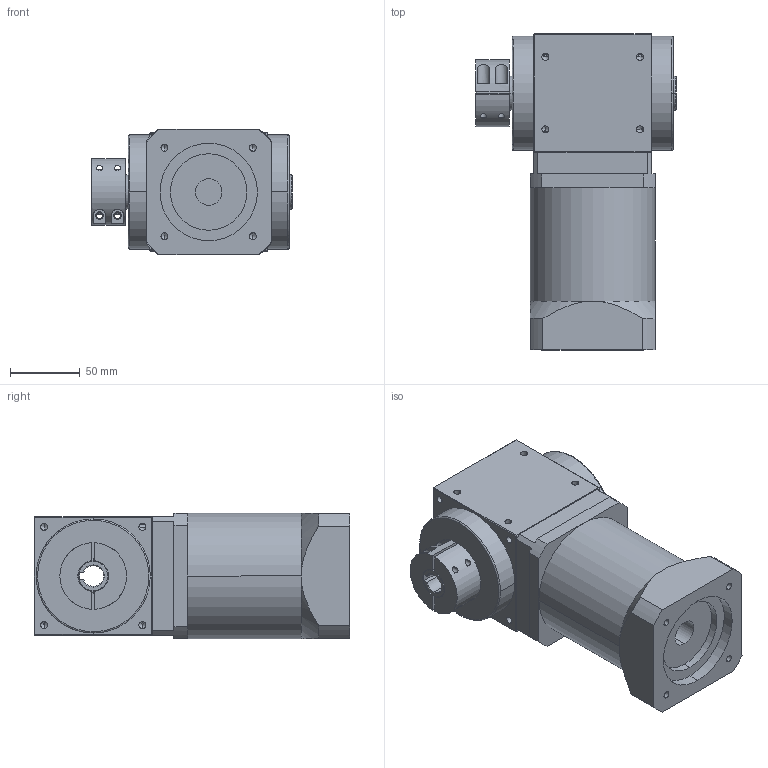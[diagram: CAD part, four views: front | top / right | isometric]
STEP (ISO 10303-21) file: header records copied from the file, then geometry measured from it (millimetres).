
FILE_DESCRIPTION (( 'STEP AP214' ), '1' );
FILE_NAME ('PAW085A-L2-C-K(12-100) 19-70-90-M6.STEP', '2021-04-24T08:00:46', ( 'Microsoft' ), ( 'Microsoft China' ), 'SwSTEP 2.0', 'SolidWorks 2016', '' );
FILE_SCHEMA (( 'AUTOMOTIVE_DESIGN' ));
Length unit declared in the file: millimetre
Products named in the file (3): PAW085A-L2-C-K(12-100) 19-70-90-M6; PAW085A-L2-2C-K--19-70-90-M6_1; 085標杶_1
Assembly tree (2 placements, depth 2):
  PAW085A-L2-C-K(12-100) 19-70-90-M6
    PAW085A-L2-2C-K--19-70-90-M6_1
    085標杶_1
Bounding box: 144 x 227 x 90 mm (x, y, z)
Volume: 1709976.8 mm3; surface area: 128629.7 mm2
Topology: 4 solids, 4 shells, 268 faces, 651 edges, 385 vertices
Faces by surface type: cylinder 105, plane 87, cone 72, bspline 4
Entity records: 11209 total; most frequent: CARTESIAN_POINT 1950, DIRECTION 1349, ORIENTED_EDGE 1234, EDGE_CURVE 617, AXIS2_PLACEMENT_3D 528, VERTEX_POINT 385, EDGE_LOOP 322, LINE 293
